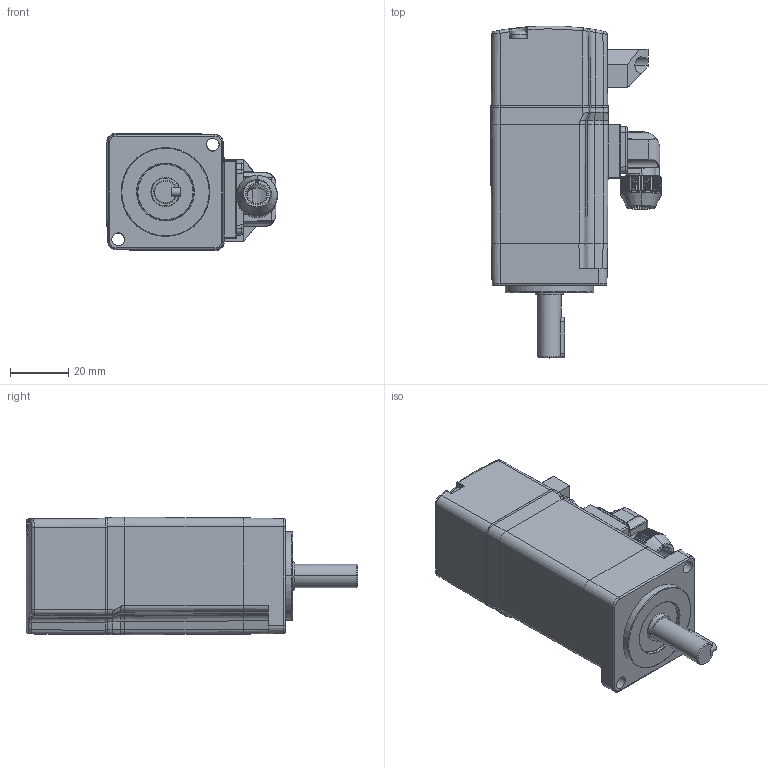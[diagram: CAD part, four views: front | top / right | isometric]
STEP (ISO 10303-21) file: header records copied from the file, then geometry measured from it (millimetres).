
FILE_DESCRIPTION((''),'2;1');
FILE_NAME('VMQUM04010B30C_N510','2023-07-19T17:13:38',('Cyclone_Aero15X'),(''),'CREO PARAMETRIC BY PTC INC, 2019080','CREO PARAMETRIC BY PTC INC, 2019080','');
FILE_SCHEMA(('AUTOMOTIVE_DESIGN { 1 0 10303 214 1 1 1 1 }'));
Products named in the file (1): VMQUM04010B30C_N510
Bounding box: 58.75 x 114.19 x 40.5 mm (x, y, z)
Volume: 99079.7 mm3; surface area: 39965.2 mm2
Topology: 1 solids, 10 shells, 1242 faces, 3206 edges, 1973 vertices
Faces by surface type: plane 470, cylinder 365, cone 219, bspline 84, sphere 46, torus 45, extrusion 13
Entity records: 46768 total; most frequent: CARTESIAN_POINT 17873, ORIENTED_EDGE 6312, DIRECTION 5418, EDGE_CURVE 3156, AXIS2_PLACEMENT_3D 1998, VERTEX_POINT 1973, VECTOR 1422, LINE 1409
